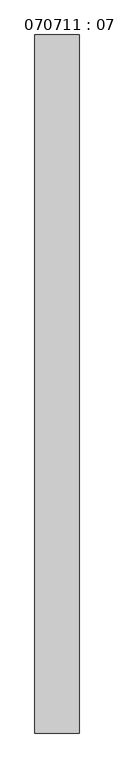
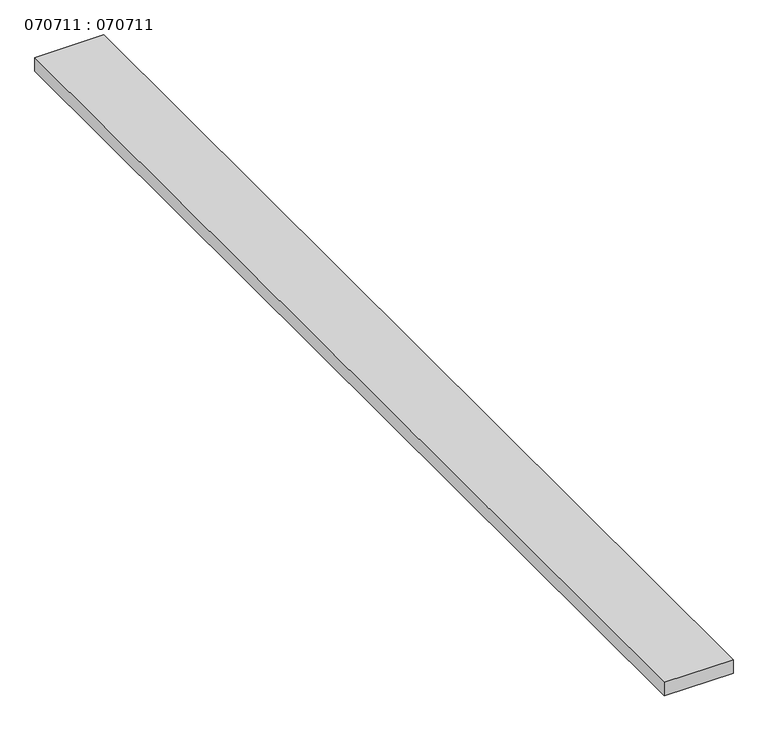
"""IFC4 building model written with IfcOpenShell, lengths in millimetres: proxy geometry, 070711 : 070711."""

from ifc_helpers import new_model, si_unit, origin, origin_with_axes, place, context, project, spatial, polyline, outline, extrude, source, transform, mapped, element, save


def proxy_070711_070711_7d9b2813(model_context):
    return source(origin(), model_context, "Body", "SweptSolid", [
        extrude(outline(polyline([(120.0, 1900.0), (120.0, 0.0), (0.0, 0.0), (0.0, 1900.0), (120.0, 1900.0)])), origin_with_axes(), (0.0, 0.0, 1.0), 25.0),
    ])


if __name__ == "__main__":
    model = new_model("IFC4")
    model_context = context("Model", 3, world=origin())
    ifc_project = project(units=[si_unit("LENGTHUNIT", "METRE", prefix="MILLI")], contexts=[model_context])
    site = spatial("IfcSite", under=ifc_project)
    building = spatial("IfcBuilding", under=site)
    placement = place(None, origin())
    proxy_070711_070711_shape = proxy_070711_070711_7d9b2813(model_context)
    element("IfcBuildingElementProxy", 1, Name="070711 : 070711", ObjectType="070711 : 070711", at=placement, inside=building, context=model_context, shape_type="MappedRepresentation", body=[
        mapped(proxy_070711_070711_shape, transform((0.0, 0.0, 0.0), x_axis=(1.0, 0.0, 0.0), y_axis=(0.0, 1.0, 0.0), z_axis=(0.0, 0.0, 1.0))),
    ])
    save(model, "model.ifc")
